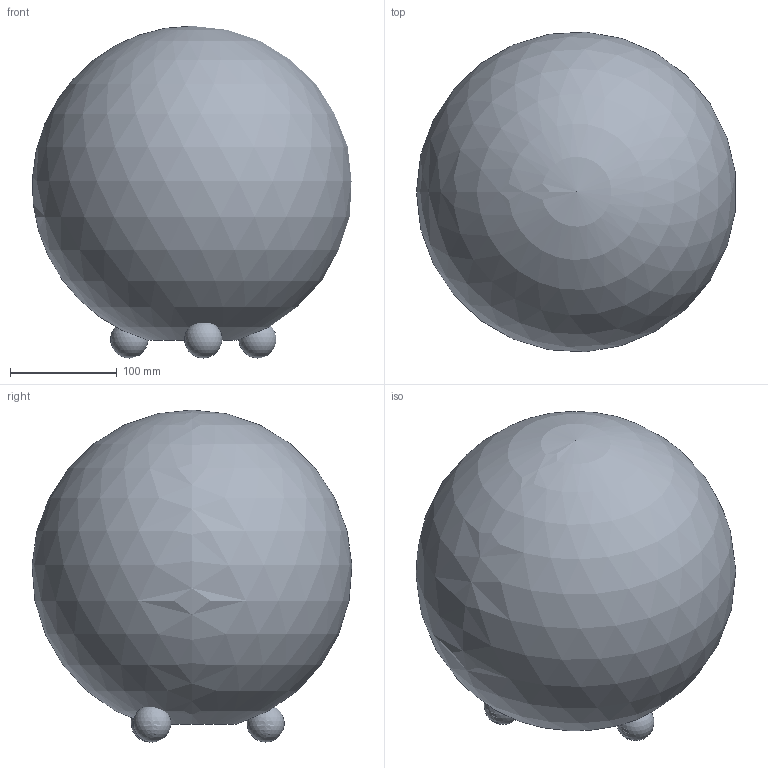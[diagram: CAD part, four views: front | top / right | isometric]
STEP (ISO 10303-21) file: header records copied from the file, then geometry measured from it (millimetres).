
FILE_DESCRIPTION(/* description */ (''),/* implementation_level */ '2;1');
FILE_NAME(/* name */ 'C:/Users/LukasGröber/GMS Cloud/Groeber Mannheim Lichtwerke - Dokumente/Marketing/Produkte/3D Daten/Kugel Sahara Tischleuchte/Kugel Sahara 30 Tischleuchte.step',/* time_stamp */ '2022-07-08T11:53:06+02:00',/* author */ (''),/* organization */ (''),/* preprocessor_version */ 'ST-DEVELOPER v19',/* originating_system */ 'Autodesk Translation Framework v11.7.0.108',/* authorisation */ '');
FILE_SCHEMA (('AUTOMOTIVE_DESIGN { 1 0 10303 214 3 1 1 }'));
Length unit declared in the file: millimetre
Products named in the file (2): Kugel Sahara 30 Tischleuchte; Kugel Sahara 300 Öffnung 80
Assembly tree (1 placements, depth 2):
  Kugel Sahara 30 Tischleuchte
    Kugel Sahara 300 Öffnung 80
Bounding box: 298.69 x 299.36 x 310.8 mm (x, y, z)
Volume: 1014796.8 mm3; surface area: 553944.5 mm2
Topology: 4 solids, 4 shells, 6 faces, 18 edges, 12 vertices
Faces by surface type: sphere 5, cylinder 1
Full cylindrical faces by diameter (mm): 82.828 x1
Entity records: 244 total; most frequent: DIRECTION 37, CARTESIAN_POINT 31, ORIENTED_EDGE 20, AXIS2_PLACEMENT_3D 18, VERTEX_POINT 12, EDGE_CURVE 10, CIRCLE 9, FACE_OUTER_BOUND 6
